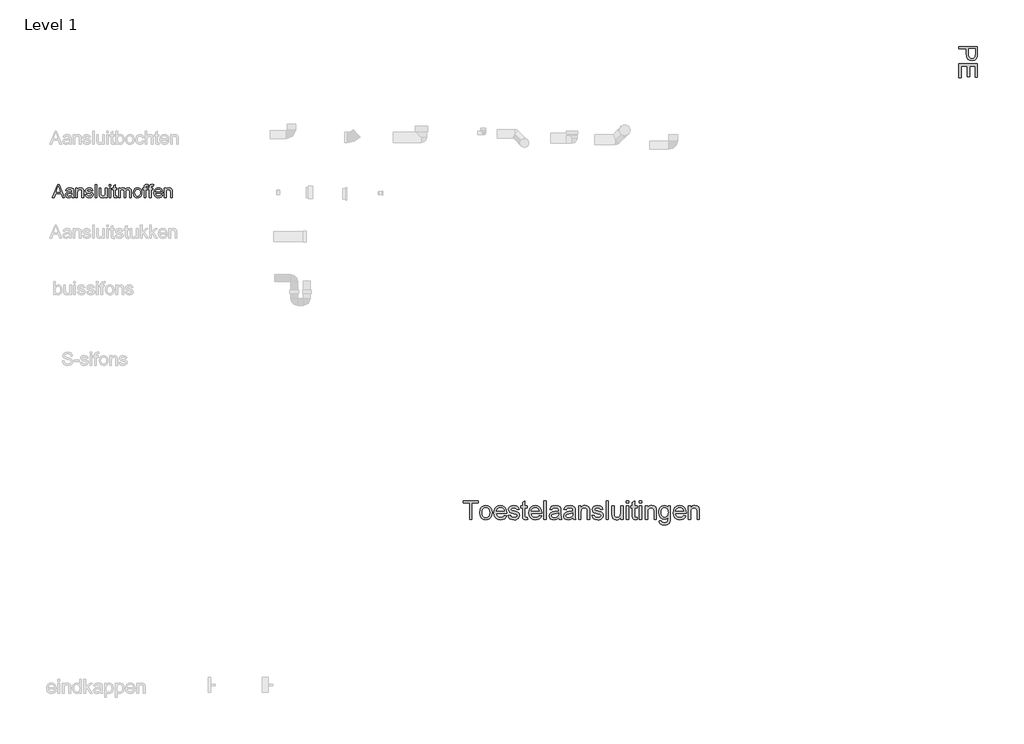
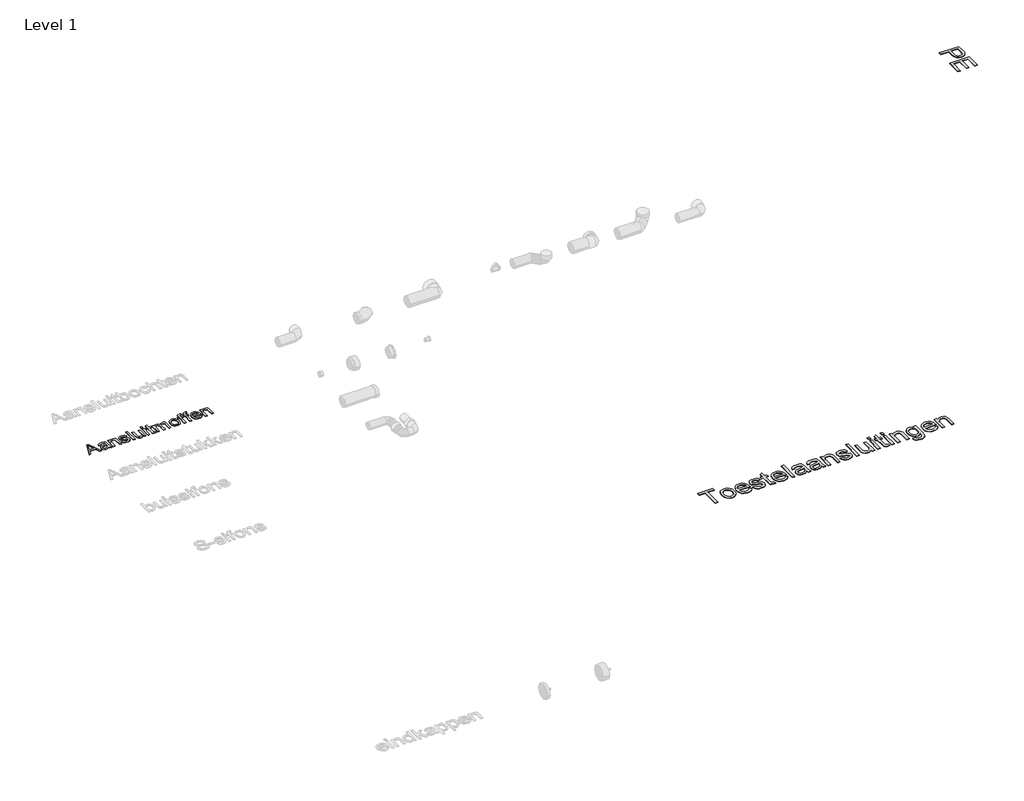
# One storey, part 9 of 9: 3 proxies.
"""IFC4 building model written with IfcOpenShell, lengths in millimetres."""

from ifc_helpers import new_model, si_unit, origin, origin_with_axes, place, context, project, spatial, polyline, outline, extrude, element, save

model = new_model("IFC4")

# Units and contexts
model_context = context("Model", 3, world=origin())
ifc_project = project(units=[si_unit("LENGTHUNIT", "METRE", prefix="MILLI")], contexts=[model_context])

# Site, building, storey
site = spatial("IfcSite", under=ifc_project)
building = spatial("IfcBuilding", under=site)
storey = spatial("IfcBuildingStorey", under=building, Name="Level 1", Elevation=0.0)

# Proxies
placement = place(None, origin())
element("IfcBuildingElementProxy", 1, Name="medium", ObjectType="medium", at=placement, inside=storey, context=model_context, shape_type="SweptSolid", body=[
    extrude(outline(polyline([(20963.5802605, 22560.7338092), (21164.4928808, 22560.7338092), (21164.4928808, 22486.2744933), (21162.5798945, 22456.2553225), (21153.1866408, 22431.8524835), (21144.860245, 22422.9803961), (21133.7624715, 22416.0335577), (21120.6720038, 22411.5453974), (21106.3675256, 22410.0493439), (21082.6881878, 22414.0899145), (21062.9574502, 22426.2116263), (21055.1890087, 22435.9191124), (21049.6401219, 22448.8792885), (21045.2010125, 22484.5577107), (21045.2010125, 22535.6197316), (20963.5802605, 22535.6197316), (20963.5802605, 22560.7338092)]), holes=[polyline([(21070.3150901, 22535.6197316), (21070.3150901, 22483.0861827), (21072.6204839, 22460.8170593), (21079.5366654, 22446.1017795), (21090.6344389, 22437.898011), (21105.4846088, 22435.1634215), (21116.7663233, 22436.7759709), (21126.2822043, 22441.6136191), (21133.4436404, 22449.0754923), (21137.6620206, 22458.5607164), (21139.3788033, 22483.6747939), (21139.3788033, 22535.6197316), (21070.3150901, 22535.6197316)])]), origin_with_axes(), (0.0, 0.0, 1.0), 5.0),
    extrude(outline(polyline([(20963.5802605, 22375.5174873), (21164.4928808, 22375.5174873), (21164.4928808, 22231.1115415), (21139.3788033, 22231.1115415), (21139.3788033, 22350.4034098), (21079.7328691, 22350.4034098), (21079.7328691, 22237.3900609), (21054.6187916, 22237.3900609), (21054.6187916, 22350.4034098), (20988.6943381, 22350.4034098), (20988.6943381, 22227.9722818), (20963.5802605, 22227.9722818), (20963.5802605, 22375.5174873)])), origin_with_axes(), (0.0, 0.0, 1.0), 5.0),
])
element("IfcBuildingElementProxy", 2, Name="medium", ObjectType="medium", at=placement, inside=storey, context=model_context, shape_type="SweptSolid", body=[
    extrude(outline(polyline([(15721.4922231, 17488.2397376), (15721.4922231, 17664.0382804), (15655.5677696, 17664.0382804), (15655.5677696, 17689.1523579), (15812.5307542, 17689.1523579), (15812.5307542, 17664.0382804), (15746.6063007, 17664.0382804), (15746.6063007, 17488.2397376), (15721.4922231, 17488.2397376)])), origin_with_axes(), (0.0, 0.0, 1.0), 5.0),
    extrude(outline(polyline([(15831.3663124, 17562.0123404), (15836.7987032, 17597.5865293), (15843.5891917, 17611.4096953), (15853.0958756, 17622.5902423), (15873.2312834, 17634.8407127), (15897.3398168, 17638.9242028), (15923.7230873, 17633.9516645), (15944.7965942, 17619.0340496), (15958.6105631, 17595.3485805), (15963.2152194, 17564.0724796), (15961.1796057, 17538.7008846), (15955.0727646, 17519.3870799), (15945.0725057, 17504.9231861), (15931.3566387, 17494.1013241), (15915.0655976, 17487.3506895), (15897.3398168, 17485.1004779), (15870.6377154, 17490.0546221), (15849.5887339, 17504.9170547), (15835.9219177, 17529.0991645), (15831.3663124, 17562.0123404)]), holes=[polyline([(15856.4803899, 17562.0613913), (15859.3866577, 17539.3324154), (15868.105461, 17523.1394762), (15881.2265855, 17513.4457857), (15897.3398168, 17510.2145555), (15913.3794718, 17513.4641798), (15926.4760709, 17523.2130526), (15935.1948741, 17539.6205896), (15938.1011419, 17562.8462062), (15935.17648, 17584.9129946), (15926.4024945, 17600.8852045), (15913.2875013, 17610.5788951), (15897.3398168, 17613.8101253), (15881.2265855, 17610.5911578), (15868.105461, 17600.9342555), (15859.3866577, 17584.7781045), (15856.4803899, 17562.0613913)])]), origin_with_axes(), (0.0, 0.0, 1.0), 5.0),
    extrude(outline(polyline([(16094.7698209, 17532.1893733), (16119.3933891, 17529.0501136), (16110.5213017, 17510.4965983), (16096.3639762, 17496.6274471), (16077.2402438, 17487.9822202), (16053.4689356, 17485.1004779), (16024.0015878, 17490.0730162), (16001.3277941, 17504.9906311), (15986.8700317, 17528.8845667), (15982.0507776, 17560.7860671), (15986.9190827, 17593.7605566), (16001.5239979, 17618.420913), (16023.8912232, 17633.7983804), (16052.0464585, 17638.9242028), (16079.3249085, 17633.8106431), (16101.1219167, 17618.4699639), (16115.4141322, 17593.8586584), (16120.1782041, 17560.9332199), (16120.0310513, 17554.1641912), (16007.1648551, 17554.1641912), (16011.511994, 17535.3654212), (16021.6103548, 17521.5453209), (16036.1846132, 17513.0472468), (16053.9594449, 17510.2145555), (16078.5830131, 17515.4630053), (16087.7310121, 17522.2688222), (16094.7698209, 17532.1893733)]), holes=[polyline([(16007.1648551, 17579.2782687), (16095.0641265, 17579.2782687), (16091.6673494, 17592.546546), (16085.0086853, 17602.0379015), (16070.3669819, 17610.8670693), (16051.9483567, 17613.8101253), (16035.0196535, 17611.4618119), (16021.0217436, 17604.4168717), (16011.2912648, 17593.4355941), (16007.1648551, 17579.2782687)])]), origin_with_axes(), (0.0, 0.0, 1.0), 5.0),
    extrude(outline(polyline([(16135.8745025, 17532.1893733), (16160.98858, 17535.328633), (16164.9494429, 17524.5864787), (16172.6136511, 17516.6892786), (16184.0302557, 17511.8332362), (16199.2483075, 17510.2145555), (16214.2824184, 17511.6983462), (16224.8528944, 17516.1497183), (16231.1068883, 17522.599916), (16233.191553, 17530.0801832), (16231.0946256, 17536.4813299), (16224.8038435, 17541.3618977), (16198.954002, 17548.5233339), (16161.1357328, 17560.8105925), (16151.5646696, 17566.9848787), (16144.630094, 17575.1579903), (16139.0137622, 17595.4160255), (16143.526448, 17614.1289564), (16155.8382321, 17628.4273032), (16171.8043107, 17635.8585195), (16193.4112466, 17638.9242028), (16223.9699776, 17633.9945841), (16235.3988449, 17628.1943113), (16243.394147, 17620.6527304), (16252.0271111, 17598.1138268), (16226.9130336, 17594.9745672), (16223.7431171, 17602.8778987), (16217.470729, 17608.8314556), (16195.3732839, 17613.8101253), (16180.9523097, 17612.6206402), (16171.3383268, 17609.0521848), (16165.9304615, 17603.9018369), (16164.1278397, 17597.966674), (16167.1199466, 17590.6580851), (16176.4886748, 17585.1153297), (16198.1201361, 17579.768778), (16234.981912, 17567.9475032), (16252.1006875, 17554.5565986), (16256.7543948, 17544.7096239), (16258.3056305, 17532.7289336), (16256.4846146, 17520.3435731), (16251.021567, 17508.6939765), (16242.1249541, 17498.6937176), (16230.0032423, 17491.25637), (16215.3615389, 17486.6394509), (16198.904951, 17485.1004779), (16173.582407, 17488.0680594), (16155.1024681, 17496.9708036), (16142.7661586, 17511.7106089), (16135.8745025, 17532.1893733)])), origin_with_axes(), (0.0, 0.0, 1.0), 5.0),
    extrude(outline(polyline([(16339.9263825, 17509.1844859), (16343.0656422, 17487.5039736), (16324.279135, 17485.1004779), (16303.2362849, 17489.2698072), (16292.7393853, 17500.2081652), (16289.6982274, 17528.7067571), (16289.6982274, 17610.6708656), (16270.8626693, 17610.6708656), (16270.8626693, 17635.7849431), (16289.6982274, 17635.7849431), (16289.6982274, 17671.6411749), (16314.812305, 17686.4055057), (16314.812305, 17635.7849431), (16339.9263825, 17635.7849431), (16339.9263825, 17610.6708656), (16314.812305, 17610.6708656), (16314.812305, 17529.4425211), (16316.1366801, 17516.4930748), (16320.4286368, 17511.9068126), (16328.9880245, 17510.2145555), (16339.9263825, 17509.1844859)])), origin_with_axes(), (0.0, 0.0, 1.0), 5.0),
    extrude(outline(polyline([(16468.3417243, 17532.1893733), (16492.9652925, 17529.0501136), (16484.093205, 17510.4965983), (16469.9358796, 17496.6274471), (16450.8121472, 17487.9822202), (16427.040839, 17485.1004779), (16397.5734911, 17490.0730162), (16374.8996975, 17504.9906311), (16360.4419351, 17528.8845667), (16355.622681, 17560.7860671), (16360.490986, 17593.7605566), (16375.0959012, 17618.420913), (16397.4631265, 17633.7983804), (16425.6183619, 17638.9242028), (16452.8968119, 17633.8106431), (16474.6938201, 17618.4699639), (16488.9860356, 17593.8586584), (16493.7501074, 17560.9332199), (16493.6029546, 17554.1641912), (16380.7367585, 17554.1641912), (16385.0838974, 17535.3654212), (16395.1822582, 17521.5453209), (16409.7565166, 17513.0472468), (16427.5313483, 17510.2145555), (16452.1549165, 17515.4630053), (16461.3029154, 17522.2688222), (16468.3417243, 17532.1893733)]), holes=[polyline([(16380.7367585, 17579.2782687), (16468.6360299, 17579.2782687), (16465.2392528, 17592.546546), (16458.5805887, 17602.0379015), (16443.9388853, 17610.8670693), (16425.52026, 17613.8101253), (16408.5915569, 17611.4618119), (16394.593647, 17604.4168717), (16384.8631682, 17593.4355941), (16380.7367585, 17579.2782687)])]), origin_with_axes(), (0.0, 0.0, 1.0), 5.0),
    extrude(outline(polyline([(16518.864185, 17488.2397376), (16518.864185, 17689.1523579), (16543.9782625, 17689.1523579), (16543.9782625, 17488.2397376), (16518.864185, 17488.2397376)])), origin_with_axes(), (0.0, 0.0, 1.0), 5.0),
    extrude(outline(polyline([(16675.8271696, 17507.0752958), (16651.4733815, 17490.0546221), (16624.5689449, 17485.1004779), (16603.5812771, 17488.0803221), (16588.0995764, 17497.0198546), (16578.5530387, 17510.5947002), (16575.3708594, 17527.4804838), (16580.1778508, 17547.3461115), (16592.808466, 17561.7670857), (16610.3932254, 17570.0076424), (16632.1227885, 17573.7845642), (16675.6800168, 17582.4175284), (16675.8271696, 17588.0093347), (16674.0981242, 17599.2174728), (16668.9109881, 17606.5505873), (16657.3104425, 17611.9952408), (16641.1481602, 17613.8101253), (16626.1876257, 17612.6022461), (16615.739777, 17608.9786084), (16608.615129, 17602.2770248), (16603.6241966, 17591.8353075), (16578.5101191, 17594.9745672), (16589.3749007, 17619.5000335), (16598.6332642, 17627.7528529), (16611.2516167, 17633.8719568), (16644.3855217, 17638.9242028), (16674.8216254, 17634.460568), (16692.0139774, 17623.2524298), (16699.7149738, 17606.2072307), (16700.9412471, 17584.2324129), (16700.9412471, 17552.9869688), (16702.2165714, 17509.3561641), (16707.2197665, 17488.2397376), (16682.105689, 17488.2397376), (16675.8271696, 17507.0752958)]), holes=[polyline([(16675.8271696, 17557.3034508), (16635.3110992, 17549.6024544), (16613.7041633, 17545.531227), (16603.9185022, 17538.9093511), (16600.484937, 17529.2463173), (16602.3550038, 17521.7783128), (16607.9652042, 17515.659209), (16617.1929109, 17511.5757188), (16629.9154966, 17510.2145555), (16643.4045031, 17511.7167403), (16655.3238797, 17516.2232947), (16671.7068912, 17530.7668963), (16675.6800168, 17550.1910656), (16675.8271696, 17557.3034508)])]), origin_with_axes(), (0.0, 0.0, 1.0), 5.0),
    extrude(outline(polyline([(16829.6508945, 17507.0752958), (16805.2971064, 17490.0546221), (16778.3926698, 17485.1004779), (16757.405002, 17488.0803221), (16741.9233014, 17497.0198546), (16732.3767636, 17510.5947002), (16729.1945843, 17527.4804838), (16734.0015757, 17547.3461115), (16746.6321909, 17561.7670857), (16764.2169503, 17570.0076424), (16785.9465135, 17573.7845642), (16829.5037417, 17582.4175284), (16829.6508945, 17588.0093347), (16827.9218491, 17599.2174728), (16822.734713, 17606.5505873), (16811.1341674, 17611.9952408), (16794.9718851, 17613.8101253), (16780.0113506, 17612.6022461), (16769.5635019, 17608.9786084), (16762.438854, 17602.2770248), (16757.4479216, 17591.8353075), (16732.333844, 17594.9745672), (16743.1986256, 17619.5000335), (16752.4569892, 17627.7528529), (16765.0753416, 17633.8719568), (16798.2092466, 17638.9242028), (16828.6453504, 17634.460568), (16845.8377023, 17623.2524298), (16853.5386987, 17606.2072307), (16854.764972, 17584.2324129), (16854.764972, 17552.9869688), (16856.0402963, 17509.3561641), (16861.0434914, 17488.2397376), (16835.9294139, 17488.2397376), (16829.6508945, 17507.0752958)]), holes=[polyline([(16829.6508945, 17557.3034508), (16789.1348241, 17549.6024544), (16767.5278882, 17545.531227), (16757.7422272, 17538.9093511), (16754.3086619, 17529.2463173), (16756.1787287, 17521.7783128), (16761.7889291, 17515.659209), (16771.0166358, 17511.5757188), (16783.7392215, 17510.2145555), (16797.228228, 17511.7167403), (16809.1476046, 17516.2232947), (16825.5306161, 17530.7668963), (16829.5037417, 17550.1910656), (16829.6508945, 17557.3034508)])]), origin_with_axes(), (0.0, 0.0, 1.0), 5.0),
    extrude(outline(polyline([(16889.2968286, 17488.2397376), (16889.2968286, 17635.7849431), (16914.4109062, 17635.7849431), (16914.4109062, 17615.1835514), (16923.1358408, 17625.5700864), (16933.6143463, 17632.98904), (16945.8464227, 17637.4404121), (16959.8320698, 17638.9242028), (16983.5481958, 17634.1417369), (16999.7350036, 17621.5846981), (17007.2643218, 17603.117022), (17008.5886969, 17578.8368103), (17008.5886969, 17488.2397376), (16983.4746194, 17488.2397376), (16983.4746194, 17575.4522959), (16980.5806144, 17597.6723684), (16970.3534949, 17609.4200668), (16953.1120921, 17613.8101253), (16938.4029436, 17611.3453159), (16925.864299, 17603.9508878), (16917.2742544, 17589.6648037), (16914.4109062, 17566.5250262), (16914.4109062, 17488.2397376), (16889.2968286, 17488.2397376)])), origin_with_axes(), (0.0, 0.0, 1.0), 5.0),
    extrude(outline(polyline([(17033.7027745, 17532.1893733), (17058.816852, 17535.328633), (17062.7777148, 17524.5864787), (17070.4419231, 17516.6892786), (17081.8585276, 17511.8332362), (17097.0765795, 17510.2145555), (17112.1106904, 17511.6983462), (17122.6811664, 17516.1497183), (17128.9351603, 17522.599916), (17131.0198249, 17530.0801832), (17128.9228976, 17536.4813299), (17122.6321154, 17541.3618977), (17096.7822739, 17548.5233339), (17058.9640048, 17560.8105925), (17049.3929416, 17566.9848787), (17042.458366, 17575.1579903), (17036.8420342, 17595.4160255), (17041.35472, 17614.1289564), (17053.6665041, 17628.4273032), (17069.6325827, 17635.8585195), (17091.2395185, 17638.9242028), (17121.7982496, 17633.9945841), (17133.2271169, 17628.1943113), (17141.2224189, 17620.6527304), (17149.8553831, 17598.1138268), (17124.7413055, 17594.9745672), (17121.571389, 17602.8778987), (17115.299001, 17608.8314556), (17093.2015558, 17613.8101253), (17078.7805816, 17612.6206402), (17069.1665988, 17609.0521848), (17063.7587335, 17603.9018369), (17061.9561117, 17597.966674), (17064.9482186, 17590.6580851), (17074.3169467, 17585.1153297), (17095.9484081, 17579.768778), (17132.810184, 17567.9475032), (17149.9289595, 17554.5565986), (17154.5826667, 17544.7096239), (17156.1339025, 17532.7289336), (17154.3128866, 17520.3435731), (17148.849839, 17508.6939765), (17139.953226, 17498.6937176), (17127.8315143, 17491.25637), (17113.1898109, 17486.6394509), (17096.733223, 17485.1004779), (17071.410679, 17488.0680594), (17052.9307401, 17496.9708036), (17040.5944305, 17511.7106089), (17033.7027745, 17532.1893733)])), origin_with_axes(), (0.0, 0.0, 1.0), 5.0),
    extrude(outline(polyline([(17184.3872397, 17488.2397376), (17184.3872397, 17689.1523579), (17209.5013172, 17689.1523579), (17209.5013172, 17488.2397376), (17184.3872397, 17488.2397376)])), origin_with_axes(), (0.0, 0.0, 1.0), 5.0),
    extrude(outline(polyline([(17341.3502243, 17488.2397376), (17341.3502243, 17513.5990698), (17332.263539, 17501.1309359), (17321.6808003, 17492.2251259), (17309.6020081, 17486.8816399), (17296.0271625, 17485.1004779), (17272.4091384, 17490.1036731), (17256.1242288, 17502.6607118), (17248.6439615, 17521.1529135), (17247.1724335, 17544.5011574), (17247.1724335, 17635.7849431), (17272.2865111, 17635.7849431), (17272.2865111, 17556.3224322), (17273.80709, 17530.7178453), (17277.4675158, 17522.1768517), (17283.7399039, 17515.6837345), (17302.4528347, 17510.2145555), (17323.4221084, 17515.8063618), (17331.7791611, 17522.4098436), (17337.2789969, 17531.0366764), (17341.3502243, 17559.0202335), (17341.3502243, 17635.7849431), (17366.4643018, 17635.7849431), (17366.4643018, 17488.2397376), (17341.3502243, 17488.2397376)])), origin_with_axes(), (0.0, 0.0, 1.0), 5.0),
    extrude(outline(polyline([(17400.9961585, 17664.0382804), (17400.9961585, 17689.1523579), (17426.110236, 17689.1523579), (17426.110236, 17664.0382804), (17400.9961585, 17664.0382804)])), origin_with_axes(), (0.0, 0.0, 1.0), 5.0),
    extrude(outline(polyline([(17400.9961585, 17488.2397376), (17400.9961585, 17635.7849431), (17426.110236, 17635.7849431), (17426.110236, 17488.2397376), (17400.9961585, 17488.2397376)])), origin_with_axes(), (0.0, 0.0, 1.0), 5.0),
    extrude(outline(polyline([(17517.1487671, 17509.1844859), (17520.2880268, 17487.5039736), (17501.5015195, 17485.1004779), (17480.4586694, 17489.2698072), (17469.9617698, 17500.2081652), (17466.920612, 17528.7067571), (17466.920612, 17610.6708656), (17448.0850538, 17610.6708656), (17448.0850538, 17635.7849431), (17466.920612, 17635.7849431), (17466.920612, 17671.6411749), (17492.0346895, 17686.4055057), (17492.0346895, 17635.7849431), (17517.1487671, 17635.7849431), (17517.1487671, 17610.6708656), (17492.0346895, 17610.6708656), (17492.0346895, 17529.4425211), (17493.3590647, 17516.4930748), (17497.6510213, 17511.9068126), (17506.2104091, 17510.2145555), (17517.1487671, 17509.1844859)])), origin_with_axes(), (0.0, 0.0, 1.0), 5.0),
    extrude(outline(polyline([(17542.2628446, 17664.0382804), (17542.2628446, 17689.1523579), (17567.3769221, 17689.1523579), (17567.3769221, 17664.0382804), (17542.2628446, 17664.0382804)])), origin_with_axes(), (0.0, 0.0, 1.0), 5.0),
    extrude(outline(polyline([(17542.2628446, 17488.2397376), (17542.2628446, 17635.7849431), (17567.3769221, 17635.7849431), (17567.3769221, 17488.2397376), (17542.2628446, 17488.2397376)])), origin_with_axes(), (0.0, 0.0, 1.0), 5.0),
    extrude(outline(polyline([(17605.0480385, 17488.2397376), (17605.0480385, 17635.7849431), (17630.162116, 17635.7849431), (17630.162116, 17615.1835514), (17638.8870506, 17625.5700864), (17649.3655561, 17632.98904), (17661.5976325, 17637.4404121), (17675.5832797, 17638.9242028), (17699.2994056, 17634.1417369), (17715.4862134, 17621.5846981), (17723.0155316, 17603.117022), (17724.3399068, 17578.8368103), (17724.3399068, 17488.2397376), (17699.2258292, 17488.2397376), (17699.2258292, 17575.4522959), (17696.3318242, 17597.6723684), (17686.1047047, 17609.4200668), (17668.8633019, 17613.8101253), (17654.1541534, 17611.3453159), (17641.6155088, 17603.9508878), (17633.0254642, 17589.6648037), (17630.162116, 17566.5250262), (17630.162116, 17488.2397376), (17605.0480385, 17488.2397376)])), origin_with_axes(), (0.0, 0.0, 1.0), 5.0),
    extrude(outline(polyline([(17752.593244, 17475.6826988), (17777.7073215, 17472.5434392), (17780.4786992, 17464.6952899), (17785.8497763, 17459.2996873), (17796.4079896, 17455.1058326), (17810.2280899, 17453.707881), (17824.9678952, 17455.2897736), (17835.9307786, 17460.0354513), (17843.5336732, 17467.6383459), (17848.1935118, 17477.791889), (17849.9102944, 17507.0752958), (17832.2274332, 17492.9486272), (17810.6695483, 17488.2397376), (17784.7767872, 17493.7211793), (17765.4691138, 17510.1655045), (17753.4577667, 17534.2740379), (17749.4539843, 17562.7481044), (17751.2504747, 17583.0245337), (17756.6399459, 17601.6700195), (17765.4323256, 17617.4705512), (17777.4375414, 17629.2121182), (17792.2447917, 17636.4961817), (17809.443275, 17638.9242028), (17831.8472885, 17633.4304984), (17849.9102944, 17616.949385), (17849.9102944, 17635.7849431), (17875.024372, 17635.7849431), (17875.024372, 17508.399671), (17873.3075893, 17478.9875054), (17868.1572414, 17459.6185184), (17859.285154, 17446.7733054), (17846.4031528, 17436.932462), (17829.7932807, 17430.6784681), (17809.7375806, 17428.5938035), (17786.3709425, 17431.5307281), (17767.9707114, 17440.3415018), (17756.1678307, 17455.0506503), (17752.593244, 17475.6826988)]), holes=[polyline([(17774.5680618, 17564.464887), (17777.247469, 17541.4293428), (17785.2856906, 17525.5920229), (17797.3706142, 17516.4133671), (17812.1901272, 17513.3538152), (17826.8992756, 17516.394973), (17839.0455128, 17525.5184465), (17847.194099, 17541.1534313), (17849.9102944, 17563.729123), (17847.1143913, 17585.5016058), (17838.7266818, 17601.1795101), (17826.4026349, 17610.6524715), (17811.7977197, 17613.8101253), (17797.4564533, 17610.7015224), (17785.4328434, 17601.3757139), (17777.2842572, 17585.9308014), (17774.5680618, 17564.464887)])]), origin_with_axes(), (0.0, 0.0, 1.0), 5.0),
    extrude(outline(polyline([(18015.9967525, 17532.1893733), (18040.6203207, 17529.0501136), (18031.7482333, 17510.4965983), (18017.5909078, 17496.6274471), (17998.4671755, 17487.9822202), (17974.6958672, 17485.1004779), (17945.2285194, 17490.0730162), (17922.5547258, 17504.9906311), (17908.0969633, 17528.8845667), (17903.2777092, 17560.7860671), (17908.1460143, 17593.7605566), (17922.7509295, 17618.420913), (17945.1181548, 17633.7983804), (17973.2733902, 17638.9242028), (18000.5518401, 17633.8106431), (18022.3488483, 17618.4699639), (18036.6410638, 17593.8586584), (18041.4051357, 17560.9332199), (18041.2579829, 17554.1641912), (17928.3917867, 17554.1641912), (17932.7389257, 17535.3654212), (17942.8372864, 17521.5453209), (17957.4115448, 17513.0472468), (17975.1863765, 17510.2145555), (17999.8099447, 17515.4630053), (18008.9579437, 17522.2688222), (18015.9967525, 17532.1893733)]), holes=[polyline([(17928.3917867, 17579.2782687), (18016.2910581, 17579.2782687), (18012.894281, 17592.546546), (18006.2356169, 17602.0379015), (17991.5939135, 17610.8670693), (17973.1752883, 17613.8101253), (17956.2465851, 17611.4618119), (17942.2486752, 17604.4168717), (17932.5181965, 17593.4355941), (17928.3917867, 17579.2782687)])]), origin_with_axes(), (0.0, 0.0, 1.0), 5.0),
    extrude(outline(polyline([(18066.5192132, 17488.2397376), (18066.5192132, 17635.7849431), (18091.6332907, 17635.7849431), (18091.6332907, 17615.1835514), (18100.3582254, 17625.5700864), (18110.8367309, 17632.98904), (18123.0688072, 17637.4404121), (18137.0544544, 17638.9242028), (18160.7705804, 17634.1417369), (18176.9573882, 17621.5846981), (18184.4867063, 17603.117022), (18185.8110815, 17578.8368103), (18185.8110815, 17488.2397376), (18160.697004, 17488.2397376), (18160.697004, 17575.4522959), (18157.8029989, 17597.6723684), (18147.5758795, 17609.4200668), (18130.3344766, 17613.8101253), (18115.6253282, 17611.3453159), (18103.0866835, 17603.9508878), (18094.4966389, 17589.6648037), (18091.6332907, 17566.5250262), (18091.6332907, 17488.2397376), (18066.5192132, 17488.2397376)])), origin_with_axes(), (0.0, 0.0, 1.0), 5.0),
])
element("IfcBuildingElementProxy", 3, Name="small", ObjectType="small", at=placement, inside=storey, context=model_context, shape_type="SweptSolid", body=[
    extrude(outline(polyline([(11251.2856187, 20940.3014891), (11307.4244112, 21080.9403233), (11322.3947559, 21080.9403233), (11378.5335483, 20940.3014891), (11359.9579601, 20940.3014891), (11343.8545389, 20984.2511248), (11285.9302925, 20984.2511248), (11269.861207, 20940.3014891), (11251.2856187, 20940.3014891)]), holes=[polyline([(11292.3853952, 21001.8309791), (11337.4337718, 21001.8309791), (11324.7639159, 21036.4069815), (11314.9095835, 21063.360469), (11306.1539921, 21039.428519), (11292.3853952, 21001.8309791)])]), origin_with_axes(), (0.0, 0.0, 1.0), 5.0),
    extrude(outline(polyline([(11461.0421222, 20953.4863798), (11443.9944706, 20941.5719083), (11425.1613649, 20938.1040073), (11410.4699975, 20940.1898982), (11399.632807, 20946.447571), (11392.9502306, 20955.9499629), (11390.7227051, 20967.7700114), (11394.0875991, 20981.6759508), (11402.9290297, 20991.7706328), (11415.2383613, 20997.5390225), (11430.4490555, 21000.1828677), (11460.9391152, 21006.2259426), (11461.0421222, 21010.1402071), (11459.8317904, 21017.9859037), (11456.2007952, 21023.1190838), (11448.0804132, 21026.9303413), (11436.7668156, 21028.2007605), (11418.9809474, 21024.8186987), (11410.5000412, 21012.818388), (11392.9201869, 21015.0158698), (11400.525534, 21032.1836962), (11415.8392352, 21042.2440425), (11439.0329687, 21045.7806148), (11460.3382413, 21042.6560703), (11472.3728877, 21034.8103737), (11477.7635852, 21022.8787343), (11478.6219765, 21007.4963618), (11478.6219765, 20985.6245509), (11479.5147035, 20955.0829877), (11483.0169401, 20940.3014891), (11465.4370858, 20940.3014891), (11461.0421222, 20953.4863798)]), holes=[polyline([(11461.0421222, 20988.6460884), (11432.6808729, 20983.2553909), (11417.5560178, 20980.4055317), (11410.7060551, 20975.7702185), (11408.3025594, 20969.0060949), (11413.5387464, 20959.4951191), (11428.9039511, 20955.6838616), (11446.6898193, 20959.8899791), (11458.1579274, 20970.0705001), (11460.9391152, 20983.6674187), (11461.0421222, 20988.6460884)])]), origin_with_axes(), (0.0, 0.0, 1.0), 5.0),
    extrude(outline(polyline([(11502.7942761, 20940.3014891), (11502.7942761, 21043.583133), (11520.3741304, 21043.583133), (11520.3741304, 21029.1621588), (11533.8165385, 21041.6260008), (11552.168945, 21045.7806148), (11568.7702331, 21042.4328886), (11580.1009986, 21033.6429615), (11585.3715213, 21020.7155881), (11586.2985839, 21003.71944), (11586.2985839, 20940.3014891), (11568.7187296, 20940.3014891), (11568.7187296, 21001.3502799), (11566.6929261, 21016.9043307), (11559.5339425, 21025.1277195), (11547.4649605, 21028.2007605), (11537.1685566, 21026.4753939), (11528.3915053, 21021.2992942), (11522.3784741, 21011.2990353), (11520.3741304, 20995.1011911), (11520.3741304, 20940.3014891), (11502.7942761, 20940.3014891)])), origin_with_axes(), (0.0, 0.0, 1.0), 5.0),
    extrude(outline(polyline([(11603.8784382, 20971.0662341), (11621.4582925, 20973.2637159), (11624.2308964, 20965.7442079), (11629.5958422, 20960.2161678), (11648.2401017, 20955.6838616), (11666.1633125, 20959.8384756), (11672.0003735, 20969.589801), (11666.1289769, 20977.4870012), (11648.0340878, 20982.5000065), (11621.5612994, 20991.1010875), (11610.0073522, 21001.144266), (11606.07592, 21015.3248906), (11609.2348001, 21028.4239422), (11617.8530489, 21038.432785), (11629.0293039, 21043.6346364), (11644.154159, 21045.7806148), (11665.5452708, 21042.3298816), (11679.1421893, 21032.9905841), (11685.1852642, 21017.2133516), (11667.60541, 21015.0158698), (11660.9957968, 21024.7156917), (11645.5275851, 21028.2007605), (11628.7031152, 21024.8702021), (11623.6557743, 21017.1103446), (11625.7502491, 21011.9943323), (11632.3083588, 21008.1144035), (11647.4503817, 21004.3718174), (11673.2536249, 20996.096925), (11685.2367677, 20986.7232918), (11689.5802278, 20971.4439263), (11684.4813833, 20954.6194563), (11669.7685561, 20942.4131317), (11647.9997522, 20938.1040073), (11630.2739714, 20940.1813143), (11617.3380141, 20946.4132353), (11608.7025974, 20956.731099), (11603.8784382, 20971.0662341)])), origin_with_axes(), (0.0, 0.0, 1.0), 5.0),
    extrude(outline(polyline([(11709.3575639, 20940.3014891), (11709.3575639, 21080.9403233), (11726.9374181, 21080.9403233), (11726.9374181, 20940.3014891), (11709.3575639, 20940.3014891)])), origin_with_axes(), (0.0, 0.0, 1.0), 5.0),
    extrude(outline(polyline([(11819.2316531, 20940.3014891), (11819.2316531, 20958.0530216), (11805.4630563, 20943.0912609), (11787.5055098, 20938.1040073), (11770.972893, 20941.6062439), (11759.5734562, 20950.396171), (11754.3372691, 20963.3407122), (11753.3071995, 20979.684483), (11753.3071995, 21043.583133), (11770.8870538, 21043.583133), (11770.8870538, 20987.9593753), (11771.9514591, 20970.0361645), (11778.9044288, 20959.5122869), (11792.0034803, 20955.6838616), (11806.681972, 20959.598126), (11816.3817939, 20970.2593462), (11819.2316531, 20989.8478362), (11819.2316531, 21043.583133), (11836.8115074, 21043.583133), (11836.8115074, 20940.3014891), (11819.2316531, 20940.3014891)])), origin_with_axes(), (0.0, 0.0, 1.0), 5.0),
    extrude(outline(polyline([(11860.983807, 21063.360469), (11860.983807, 21080.9403233), (11878.5636613, 21080.9403233), (11878.5636613, 21063.360469), (11860.983807, 21063.360469)])), origin_with_axes(), (0.0, 0.0, 1.0), 5.0),
    extrude(outline(polyline([(11860.983807, 20940.3014891), (11860.983807, 21043.583133), (11878.5636613, 21043.583133), (11878.5636613, 20940.3014891), (11860.983807, 20940.3014891)])), origin_with_axes(), (0.0, 0.0, 1.0), 5.0),
    extrude(outline(polyline([(11942.290633, 20954.9628129), (11944.4881148, 20939.7864543), (11931.3375597, 20938.1040073), (11916.6075647, 20941.0225378), (11909.2597349, 20948.6793884), (11907.1309245, 20968.6284027), (11907.1309245, 21026.0032787), (11893.9460338, 21026.0032787), (11893.9460338, 21043.583133), (11907.1309245, 21043.583133), (11907.1309245, 21068.6824952), (11924.7107787, 21079.0175267), (11924.7107787, 21043.583133), (11942.290633, 21043.583133), (11942.290633, 21026.0032787), (11924.7107787, 21026.0032787), (11924.7107787, 20969.1434375), (11925.6378414, 20960.0788252), (11928.642211, 20956.8684416), (11934.6337824, 20955.6838616), (11942.290633, 20954.9628129)])), origin_with_axes(), (0.0, 0.0, 1.0), 5.0),
    extrude(outline(polyline([(11959.8704873, 20940.3014891), (11959.8704873, 21043.583133), (11977.4503416, 21043.583133), (11977.4503416, 21026.5869848), (11989.5364914, 21040.510092), (12006.7386535, 21045.7806148), (12024.3528434, 21040.4070851), (12034.0354975, 21025.3509013), (12047.7525908, 21040.6731864), (12065.0749277, 21045.7806148), (12078.2898621, 21043.6560962), (12088.0626473, 21037.2825407), (12094.1014303, 21026.4882698), (12096.1143579, 21011.1016053), (12096.1143579, 20940.3014891), (12078.5345037, 20940.3014891), (12078.5345037, 21003.5477617), (12076.9035601, 21018.2262533), (12070.9978279, 21025.4539082), (12060.9546494, 21028.2007605), (12051.4307977, 21026.4410583), (12043.6666482, 21021.1619516), (12038.5034244, 21012.0029162), (12036.7823498, 20998.6034277), (12036.7823498, 20940.3014891), (12019.2024955, 20940.3014891), (12019.2024955, 21005.5048939), (12015.1337206, 21022.5353777), (12009.7644829, 21026.7844148), (12001.7943195, 21028.2007605), (11988.781107, 21024.4238387), (11980.1285225, 21013.3677584), (11977.4503416, 20992.3886745), (11977.4503416, 20940.3014891), (11959.8704873, 20940.3014891)])), origin_with_axes(), (0.0, 0.0, 1.0), 5.0),
    extrude(outline(polyline([(12118.0891758, 20991.942311), (12121.8918493, 21016.8442433), (12133.29987, 21034.3468423), (12147.3946555, 21042.9221716), (12164.2706289, 21045.7806148), (12182.7389182, 21042.2998379), (12197.4903731, 21031.8575075), (12207.1601513, 21015.2776791), (12210.3834107, 20993.3844085), (12208.9584811, 20975.624292), (12204.6836924, 20962.1046287), (12197.6835111, 20951.979903), (12188.0824042, 20944.4045996), (12176.6786755, 20939.6791554), (12164.2706289, 20938.1040073), (12145.5791579, 20941.5719083), (12130.8448708, 20951.9756111), (12121.2780995, 20968.9030879), (12118.0891758, 20991.942311)]), holes=[polyline([(12135.6690301, 20991.9766467), (12137.7034175, 20976.0663635), (12143.8065798, 20964.7313061), (12152.9913669, 20957.9457227), (12164.2706289, 20955.6838616), (12175.4983874, 20957.9585986), (12184.6660067, 20964.7828096), (12190.769169, 20976.2680855), (12192.8035565, 20992.5260171), (12190.7562931, 21007.972769), (12184.6145032, 21019.1533159), (12175.4340081, 21025.9388993), (12164.2706289, 21028.2007605), (12152.9913669, 21025.9474833), (12143.8065798, 21019.1876516), (12137.7034175, 21007.8783459), (12135.6690301, 20991.9766467)])]), origin_with_axes(), (0.0, 0.0, 1.0), 5.0),
    extrude(outline(polyline([(12234.5557104, 20940.3014891), (12234.5557104, 21026.0032787), (12219.1733379, 21026.0032787), (12219.1733379, 21043.583133), (12234.5557104, 21043.583133), (12234.5557104, 21053.9868358), (12236.4098356, 21068.6481596), (12245.4057767, 21079.1205337), (12263.1229736, 21083.1378051), (12279.1577235, 21081.2150085), (12276.5825495, 21064.7338951), (12266.4535319, 21065.5579508), (12255.3802838, 21062.6394203), (12252.1355646, 21051.7550184), (12252.1355646, 21043.583133), (12271.9129007, 21043.583133), (12271.9129007, 21026.0032787), (12252.1355646, 21026.0032787), (12252.1355646, 20940.3014891), (12234.5557104, 20940.3014891)])), origin_with_axes(), (0.0, 0.0, 1.0), 5.0),
    extrude(outline(polyline([(12291.6902368, 20940.3014891), (12291.6902368, 21026.0032787), (12276.3078643, 21026.0032787), (12276.3078643, 21043.583133), (12291.6902368, 21043.583133), (12291.6902368, 21053.9868358), (12293.544362, 21068.6481596), (12302.5403031, 21079.1205337), (12320.2575, 21083.1378051), (12336.2922499, 21081.2150085), (12333.7170759, 21064.7338951), (12323.5880583, 21065.5579508), (12312.5148102, 21062.6394203), (12309.270091, 21051.7550184), (12309.270091, 21043.583133), (12329.0474271, 21043.583133), (12329.0474271, 21026.0032787), (12309.270091, 21026.0032787), (12309.270091, 20940.3014891), (12291.6902368, 20940.3014891)])), origin_with_axes(), (0.0, 0.0, 1.0), 5.0),
    extrude(outline(polyline([(12416.7406846, 20971.0662341), (12433.9771823, 20968.8687523), (12427.7667211, 20955.8812916), (12417.8565933, 20946.1728857), (12404.4699806, 20940.1212269), (12387.8300648, 20938.1040073), (12367.2029214, 20941.5847841), (12351.3312658, 20952.0271146), (12341.2108321, 20968.7528695), (12337.8373542, 20991.0839197), (12341.2451678, 21014.1660624), (12351.4686084, 21031.4283118), (12367.1256661, 21042.192539), (12386.8343309, 21045.7806148), (12405.9292459, 21042.2011229), (12421.1871516, 21031.4626475), (12431.1917025, 21014.2347337), (12434.5265528, 20991.1869267), (12434.4235458, 20986.4486066), (12355.4172085, 20986.4486066), (12358.4602057, 20973.2894676), (12365.5290583, 20963.6153974), (12375.7310391, 20957.6667455), (12388.1734214, 20955.6838616), (12405.4099191, 20959.3577764), (12416.7406846, 20971.0662341)]), holes=[polyline([(12355.4172085, 21004.0284608), (12416.9466985, 21004.0284608), (12409.9078896, 21019.9602038), (12399.6586972, 21026.1406213), (12386.7656596, 21028.2007605), (12374.9155674, 21026.5569411), (12365.1170304, 21021.6254829), (12358.3056953, 21013.9385887), (12355.4172085, 21004.0284608)])]), origin_with_axes(), (0.0, 0.0, 1.0), 5.0),
    extrude(outline(polyline([(12452.106407, 20940.3014891), (12452.106407, 21043.583133), (12469.6862613, 21043.583133), (12469.6862613, 21029.1621588), (12483.1286694, 21041.6260008), (12501.4810759, 21045.7806148), (12518.082364, 21042.4328886), (12529.4131295, 21033.6429615), (12534.6836522, 21020.7155881), (12535.6107148, 21003.71944), (12535.6107148, 20940.3014891), (12518.0308606, 20940.3014891), (12518.0308606, 21001.3502799), (12516.005057, 21016.9043307), (12508.8460734, 21025.1277195), (12496.7770914, 21028.2007605), (12486.4806875, 21026.4753939), (12477.7036363, 21021.2992942), (12471.690605, 21011.2990353), (12469.6862613, 20995.1011911), (12469.6862613, 20940.3014891), (12452.106407, 20940.3014891)])), origin_with_axes(), (0.0, 0.0, 1.0), 5.0),
])

save(model, "model.ifc")
